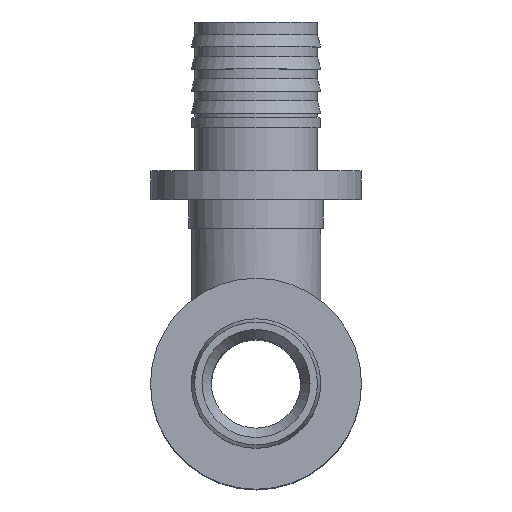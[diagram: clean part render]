
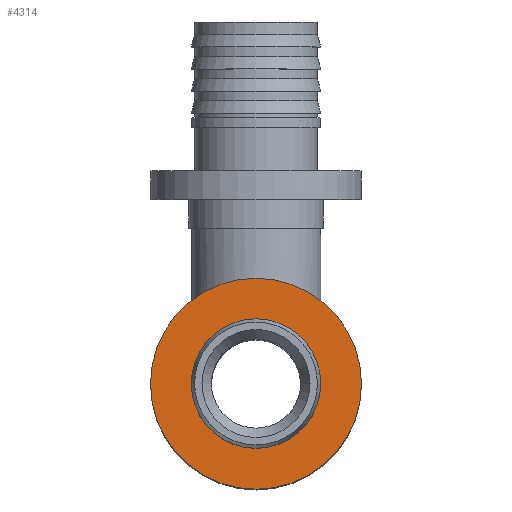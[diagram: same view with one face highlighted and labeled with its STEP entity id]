
A CAD part, top view. The second image highlights one B-rep face of the part: STEP entity #4314.
In plain terms, the highlighted planar face has unit normal (0, 0, 1).
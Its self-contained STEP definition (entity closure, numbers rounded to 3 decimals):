
#65=FACE_BOUND('',#1061,.T.);
#207=CIRCLE('',#4616,6.4);
#208=CIRCLE('',#4617,6.4);
#209=CIRCLE('',#4619,11.);
#210=CIRCLE('',#4620,11.);
#797=FACE_OUTER_BOUND('',#1060,.T.);
#1060=EDGE_LOOP('',(#3811,#3812));
#1061=EDGE_LOOP('',(#3813,#3814));
#2023=VERTEX_POINT('',#9448);
#2024=VERTEX_POINT('',#9449);
#2025=VERTEX_POINT('',#9454);
#2026=VERTEX_POINT('',#9455);
#2644=EDGE_CURVE('',#2023,#2024,#207,.T.);
#2645=EDGE_CURVE('',#2024,#2023,#208,.T.);
#2647=EDGE_CURVE('',#2025,#2026,#209,.T.);
#2648=EDGE_CURVE('',#2026,#2025,#210,.T.);
#3811=ORIENTED_EDGE('',*,*,#2647,.F.);
#3812=ORIENTED_EDGE('',*,*,#2648,.F.);
#3813=ORIENTED_EDGE('',*,*,#2644,.T.);
#3814=ORIENTED_EDGE('',*,*,#2645,.T.);
#4100=PLANE('',#4618);
#4314=ADVANCED_FACE('',(#797,#65),#4100,.T.);
#4616=AXIS2_PLACEMENT_3D('',#9450,#5434,#5435);
#4617=AXIS2_PLACEMENT_3D('',#9451,#5436,#5437);
#4618=AXIS2_PLACEMENT_3D('',#9453,#5439,#5440);
#4619=AXIS2_PLACEMENT_3D('',#9456,#5441,#5442);
#4620=AXIS2_PLACEMENT_3D('',#9457,#5443,#5444);
#5434=DIRECTION('center_axis',(0.,0.,-1.));
#5435=DIRECTION('ref_axis',(1.,0.,0.));
#5436=DIRECTION('center_axis',(0.,0.,-1.));
#5437=DIRECTION('ref_axis',(1.,0.,0.));
#5439=DIRECTION('center_axis',(0.,0.,1.));
#5440=DIRECTION('ref_axis',(1.,0.,0.));
#5441=DIRECTION('center_axis',(0.,0.,-1.));
#5442=DIRECTION('ref_axis',(1.,0.,0.));
#5443=DIRECTION('center_axis',(0.,0.,-1.));
#5444=DIRECTION('ref_axis',(1.,0.,0.));
#9448=CARTESIAN_POINT('',(0.,-6.4,60.));
#9449=CARTESIAN_POINT('',(0.,6.4,60.));
#9450=CARTESIAN_POINT('Origin',(0.,0.,60.));
#9451=CARTESIAN_POINT('Origin',(0.,0.,60.));
#9453=CARTESIAN_POINT('Origin',(0.,-11.,60.));
#9454=CARTESIAN_POINT('',(0.,-11.,60.));
#9455=CARTESIAN_POINT('',(0.,11.,60.));
#9456=CARTESIAN_POINT('Origin',(0.,0.,60.));
#9457=CARTESIAN_POINT('Origin',(0.,0.,60.));
